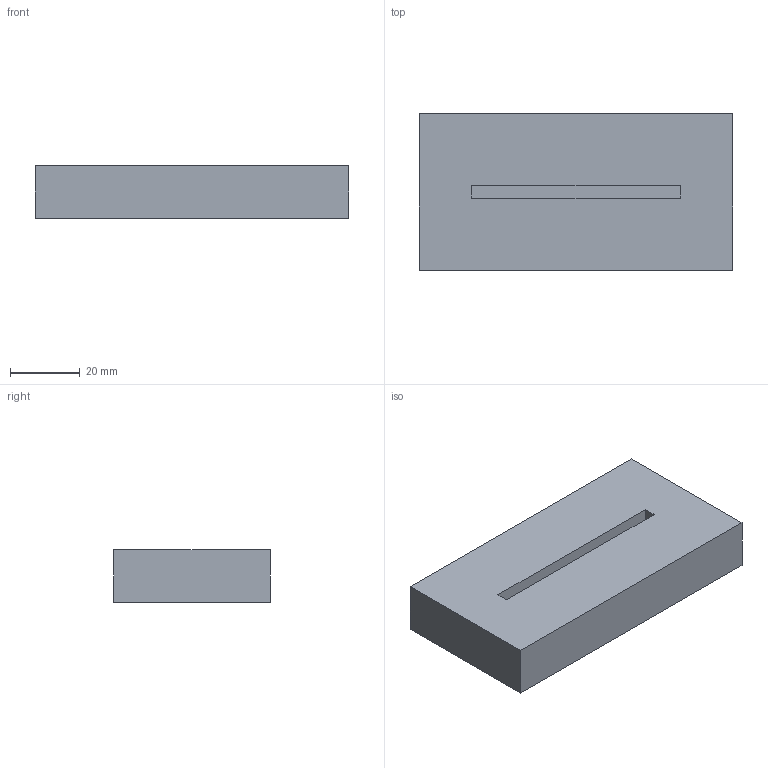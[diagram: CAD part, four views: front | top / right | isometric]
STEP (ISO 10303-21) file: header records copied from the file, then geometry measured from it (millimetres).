
FILE_DESCRIPTION(('Open CASCADE Model'),'2;1');
FILE_NAME('Open CASCADE Shape Model','2026-10-21T16:54:04',('Author'),( 'Open CASCADE'),'Open CASCADE STEP processor 7.9','Open CASCADE 7.9' ,'Unknown');
FILE_SCHEMA(('AUTOMOTIVE_DESIGN { 1 0 10303 214 1 1 1 1 }'));
Length unit declared in the file: millimetre
Products named in the file (1): Open CASCADE STEP translator 7.9 68
Bounding box: 90 x 45 x 15 mm (x, y, z)
Volume: 58230 mm3; surface area: 13674 mm2
Topology: 1 solids, 1 shells, 11 faces, 24 edges, 16 vertices
Faces by surface type: plane 11
Entity records: 620 total; most frequent: CARTESIAN_POINT 100, DIRECTION 96, LINE 72, VECTOR 72, ORIENTED_EDGE 48, PCURVE 48, DEFINITIONAL_REPRESENTATION 48, EDGE_CURVE 24
